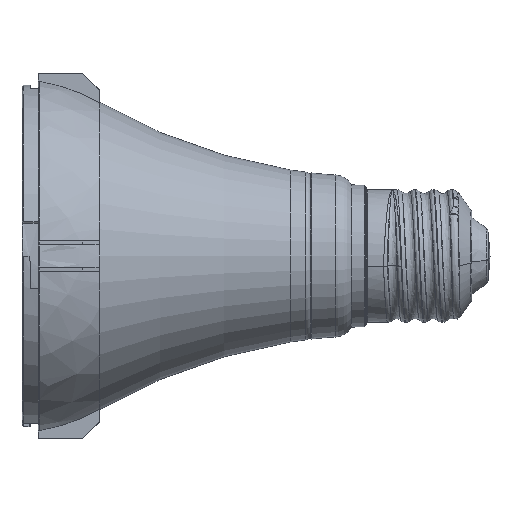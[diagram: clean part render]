
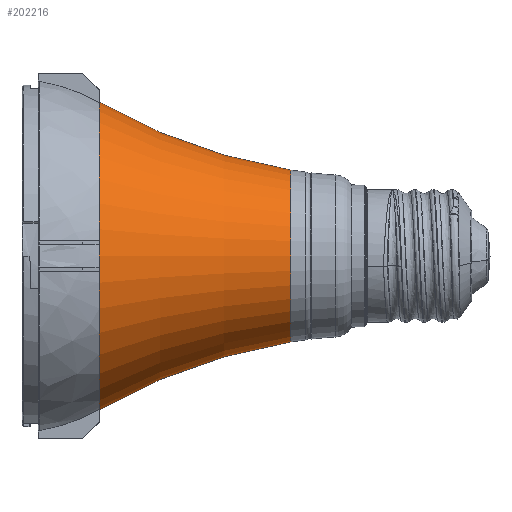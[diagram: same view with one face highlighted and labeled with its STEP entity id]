
A CAD part, left-side view. The second image highlights one B-rep face of the part: STEP entity #202216.
In plain terms, the highlighted toroidal (fillet/blend) face has major radius 125.573 mm and minor radius 110 mm.
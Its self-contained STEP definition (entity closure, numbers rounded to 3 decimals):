
#201777 = VERTEX_POINT('',#201778);
#201778 = CARTESIAN_POINT('',(0.,-32.222,
    -16.939));
#201785 = VERTEX_POINT('',#201786);
#201786 = CARTESIAN_POINT('',(0.,-32.222,16.939));
#202216 = ADVANCED_FACE('',(#202217),#202251,.F.);
#202217 = FACE_BOUND('',#202218,.F.);
#202218 = EDGE_LOOP('',(#202219,#202228,#202235,#202244));
#202219 = ORIENTED_EDGE('',*,*,#202220,.T.);
#202220 = EDGE_CURVE('',#202221,#201785,#202223,.T.);
#202221 = VERTEX_POINT('',#202222);
#202222 = CARTESIAN_POINT('',(0.,5.5,
    30.311));
#202223 = CIRCLE('',#202224,110.);
#202224 = AXIS2_PLACEMENT_3D('',#202225,#202226,#202227);
#202225 = CARTESIAN_POINT('',(0.,-49.5,125.574));
#202226 = DIRECTION('',(-1.,-0.,0.));
#202227 = DIRECTION('',(0.,0.,1.));
#202228 = ORIENTED_EDGE('',*,*,#202229,.F.);
#202229 = EDGE_CURVE('',#201777,#201785,#202230,.T.);
#202230 = CIRCLE('',#202231,16.939);
#202231 = AXIS2_PLACEMENT_3D('',#202232,#202233,#202234);
#202232 = CARTESIAN_POINT('',(0.,-32.222,0.));
#202233 = DIRECTION('',(-0.,1.,0.));
#202234 = DIRECTION('',(0.,0.,1.));
#202235 = ORIENTED_EDGE('',*,*,#202236,.F.);
#202236 = EDGE_CURVE('',#202237,#201777,#202239,.T.);
#202237 = VERTEX_POINT('',#202238);
#202238 = CARTESIAN_POINT('',(0.,5.5,-30.311));
#202239 = CIRCLE('',#202240,110.);
#202240 = AXIS2_PLACEMENT_3D('',#202241,#202242,#202243);
#202241 = CARTESIAN_POINT('',(0.,-49.5,
    -125.574));
#202242 = DIRECTION('',(1.,0.,0.));
#202243 = DIRECTION('',(0.,0.,-1.));
#202244 = ORIENTED_EDGE('',*,*,#202245,.T.);
#202245 = EDGE_CURVE('',#202237,#202221,#202246,.T.);
#202246 = CIRCLE('',#202247,30.311);
#202247 = AXIS2_PLACEMENT_3D('',#202248,#202249,#202250);
#202248 = CARTESIAN_POINT('',(0.,5.5,0.));
#202249 = DIRECTION('',(-0.,1.,0.));
#202250 = DIRECTION('',(0.,0.,1.));
#202251 = TOROIDAL_SURFACE('',#202252,125.574,110.);
#202252 = AXIS2_PLACEMENT_3D('',#202253,#202254,#202255);
#202253 = CARTESIAN_POINT('',(0.,-49.5,0.));
#202254 = DIRECTION('',(-0.,1.,0.));
#202255 = DIRECTION('',(0.,0.,1.));
